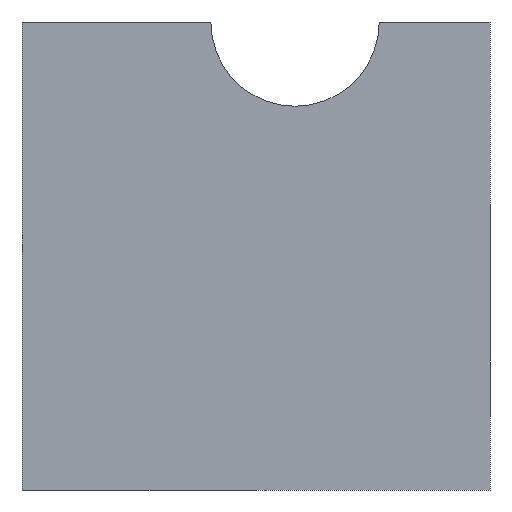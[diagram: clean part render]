
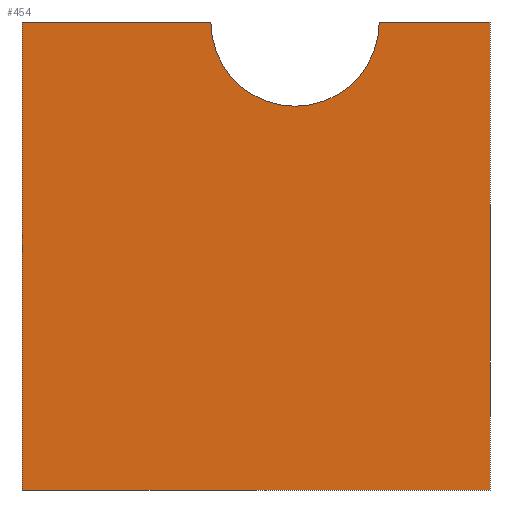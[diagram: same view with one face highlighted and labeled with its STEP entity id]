
A CAD part, left-side view. The second image highlights one B-rep face of the part: STEP entity #454.
In plain terms, the highlighted planar face has unit normal (-1, 0, 0).
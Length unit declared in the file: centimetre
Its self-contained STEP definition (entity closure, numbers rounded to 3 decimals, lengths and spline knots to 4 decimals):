
#3 = LINE ( 'NONE', #161, #341 ) ;
#11 = LINE ( 'NONE', #172, #297 ) ;
#21 = LINE ( 'NONE', #396, #377 ) ;
#22 = DIRECTION ( 'NONE',  ( 0., 0., -1. ) ) ;
#41 = EDGE_CURVE ( 'NONE', #439, #105, #53, .T. ) ;
#51 = DIRECTION ( 'NONE',  ( 0., 0., -1. ) ) ;
#53 = LINE ( 'NONE', #238, #323 ) ;
#58 = EDGE_CURVE ( 'NONE', #65, #106, #3, .T. ) ;
#63 = ORIENTED_EDGE ( 'NONE', *, *, #41, .F. ) ;
#64 = DIRECTION ( 'NONE',  ( 1., 0., 0. ) ) ;
#65 = VERTEX_POINT ( 'NONE', #250 ) ;
#92 = CARTESIAN_POINT ( 'NONE',  ( 0., 416.5951, 1000. ) ) ;
#93 = PLANE ( 'NONE',  #342 ) ;
#105 = VERTEX_POINT ( 'NONE', #319 ) ;
#106 = VERTEX_POINT ( 'NONE', #423 ) ;
#124 = CIRCLE ( 'NONE', #361, 179.9243 ) ;
#126 = DIRECTION ( 'NONE',  ( 0., 0., -1. ) ) ;
#135 = EDGE_CURVE ( 'NONE', #460, #474, #124, .T. ) ;
#136 = CARTESIAN_POINT ( 'NONE',  ( 0., 416.5951, 1000. ) ) ;
#138 = ORIENTED_EDGE ( 'NONE', *, *, #397, .F. ) ;
#142 = DIRECTION ( 'NONE',  ( 0., 0., -1. ) ) ;
#158 = ORIENTED_EDGE ( 'NONE', *, *, #58, .T. ) ;
#161 = CARTESIAN_POINT ( 'NONE',  ( 0., 1000., 1000. ) ) ;
#169 = CIRCLE ( 'NONE', #336, 179.9243 ) ;
#172 = CARTESIAN_POINT ( 'NONE',  ( 0., 1000., 1000. ) ) ;
#181 = VECTOR ( 'NONE', #398, 100. ) ;
#185 = CARTESIAN_POINT ( 'NONE',  ( 0., 1000., 1000. ) ) ;
#187 = ORIENTED_EDGE ( 'NONE', *, *, #357, .F. ) ;
#189 = CARTESIAN_POINT ( 'NONE',  ( 0., 416.5951, 820.0757 ) ) ;
#201 = ORIENTED_EDGE ( 'NONE', *, *, #135, .T. ) ;
#218 = DIRECTION ( 'NONE',  ( 0., -1., 0. ) ) ;
#221 = CARTESIAN_POINT ( 'NONE',  ( 0., 596.5194, 1000. ) ) ;
#226 = CARTESIAN_POINT ( 'NONE',  ( 0., 0., 1000. ) ) ;
#228 = ORIENTED_EDGE ( 'NONE', *, *, #380, .T. ) ;
#238 = CARTESIAN_POINT ( 'NONE',  ( 0., 0., 1000. ) ) ;
#250 = CARTESIAN_POINT ( 'NONE',  ( 0., 1000., 1000. ) ) ;
#259 = LINE ( 'NONE', #392, #181 ) ;
#263 = ORIENTED_EDGE ( 'NONE', *, *, #314, .T. ) ;
#294 = DIRECTION ( 'NONE',  ( 0., -1., 0. ) ) ;
#297 = VECTOR ( 'NONE', #218, 100. ) ;
#314 = EDGE_CURVE ( 'NONE', #474, #373, #169, .T. ) ;
#316 = DIRECTION ( 'NONE',  ( 0., 0., -1. ) ) ;
#319 = CARTESIAN_POINT ( 'NONE',  ( 0., 0., 0. ) ) ;
#323 = VECTOR ( 'NONE', #51, 100. ) ;
#336 = AXIS2_PLACEMENT_3D ( 'NONE', #92, #458, #126 ) ;
#341 = VECTOR ( 'NONE', #316, 100. ) ;
#342 = AXIS2_PLACEMENT_3D ( 'NONE', #185, #64, #142 ) ;
#357 = EDGE_CURVE ( 'NONE', #460, #439, #259, .T. ) ;
#361 = AXIS2_PLACEMENT_3D ( 'NONE', #136, #407, #22 ) ;
#373 = VERTEX_POINT ( 'NONE', #221 ) ;
#377 = VECTOR ( 'NONE', #294, 100. ) ;
#380 = EDGE_CURVE ( 'NONE', #106, #105, #21, .T. ) ;
#392 = CARTESIAN_POINT ( 'NONE',  ( 0., 1000., 1000. ) ) ;
#396 = CARTESIAN_POINT ( 'NONE',  ( 0., 1000., 0. ) ) ;
#397 = EDGE_CURVE ( 'NONE', #65, #373, #11, .T. ) ;
#398 = DIRECTION ( 'NONE',  ( 0., -1., 0. ) ) ;
#406 = CARTESIAN_POINT ( 'NONE',  ( 0., 236.6708, 1000. ) ) ;
#407 = DIRECTION ( 'NONE',  ( 1., 0., 0. ) ) ;
#412 = EDGE_LOOP ( 'NONE', ( #187, #201, #263, #138, #158, #228, #63 ) ) ;
#423 = CARTESIAN_POINT ( 'NONE',  ( 0., 1000., 0. ) ) ;
#436 = FACE_OUTER_BOUND ( 'NONE', #412, .T. ) ;
#439 = VERTEX_POINT ( 'NONE', #226 ) ;
#454 = ADVANCED_FACE ( 'NONE', ( #436 ), #93, .F. ) ;
#458 = DIRECTION ( 'NONE',  ( 1., 0., 0. ) ) ;
#460 = VERTEX_POINT ( 'NONE', #406 ) ;
#474 = VERTEX_POINT ( 'NONE', #189 ) ;
